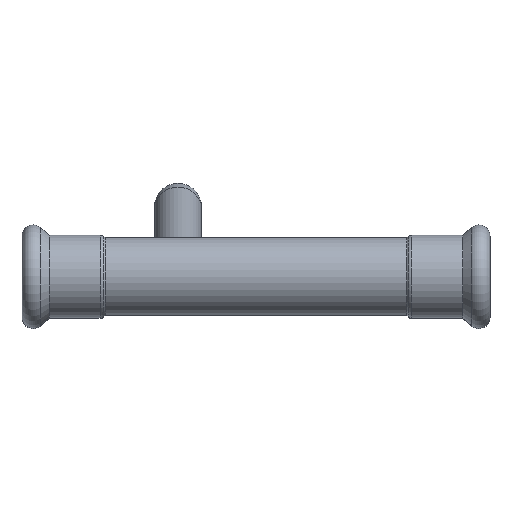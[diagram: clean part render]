
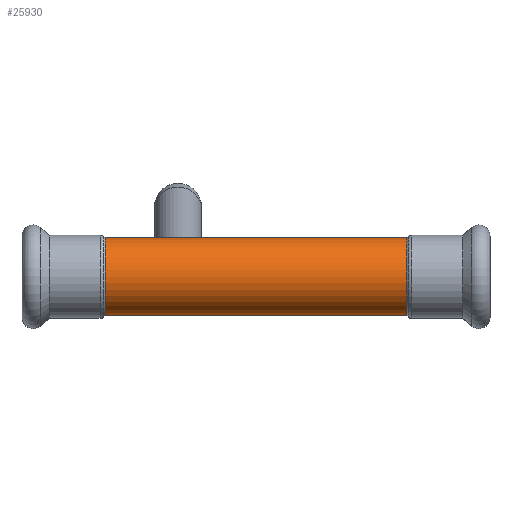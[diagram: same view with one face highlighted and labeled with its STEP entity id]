
A CAD part, top view. The second image highlights one B-rep face of the part: STEP entity #25930.
In plain terms, the highlighted cylindrical face has radius 10 mm (diameter 20 mm), a partial arc.
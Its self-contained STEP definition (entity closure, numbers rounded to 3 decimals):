
#3080=CARTESIAN_POINT('',(-65.883,92.285,
0.));
#3090=VERTEX_POINT('',#3080);
#3170=CARTESIAN_POINT('',(-65.883,112.285,0.));
#3180=VERTEX_POINT('',#3170);
#3210=CARTESIAN_POINT('',(-65.883,102.285,0.));
#3220=DIRECTION('',(1.,0.,0.));
#3230=DIRECTION('',(0.,-1.,0.));
#3240=AXIS2_PLACEMENT_3D('',#3210,#3220,#3230);
#3250=CIRCLE('',#3240,10.);
#3720=CARTESIAN_POINT('',(11.535,92.285,0.));
#3730=VERTEX_POINT('',#3720);
#3780=CARTESIAN_POINT('',(11.535,102.285,0.));
#3790=DIRECTION('',(1.,0.,0.));
#3800=DIRECTION('',(0.,-1.,0.));
#3810=AXIS2_PLACEMENT_3D('',#3780,#3790,#3800);
#3820=CIRCLE('',#3810,10.);
#3830=CARTESIAN_POINT('',(11.535,112.285,
0.));
#3840=VERTEX_POINT('',#3830);
#5630=CARTESIAN_POINT('',(-27.174,102.285,0.));
#5640=DIRECTION('',(1.,0.,0.));
#5650=DIRECTION('',(0.,-1.,0.));
#5660=AXIS2_PLACEMENT_3D('',#5630,#5640,#5650);
#5670=CYLINDRICAL_SURFACE('',#5660,10.);
#8410=CARTESIAN_POINT('',(-27.174,112.285,
0.));
#8420=DIRECTION('',(1.,0.,0.));
#8430=VECTOR('',#8420,1.);
#8440=LINE('',#8410,#8430);
#8450=EDGE_CURVE('',#3180,#3840,#8440,.T.);
#8480=CARTESIAN_POINT('',(-27.174,92.285,0.));
#8490=DIRECTION('',(1.,0.,0.));
#8500=VECTOR('',#8490,1.);
#8510=LINE('',#8480,#8500);
#8520=EDGE_CURVE('',#3090,#3730,#8510,.T.);
#25850=EDGE_CURVE('',#3730,#3840,#3820,.T.);
#25860=ORIENTED_EDGE('',*,*,#25850,.F.);
#25870=ORIENTED_EDGE('',*,*,#8450,.T.);
#25880=EDGE_CURVE('',#3090,#3180,#3250,.T.);
#25890=ORIENTED_EDGE('',*,*,#25880,.T.);
#25900=ORIENTED_EDGE('',*,*,#8520,.F.);
#25910=EDGE_LOOP('',(#25900,#25890,#25870,#25860));
#25920=FACE_OUTER_BOUND('',#25910,.T.);
#25930=ADVANCED_FACE('',(#25920),#5670,.T.);
